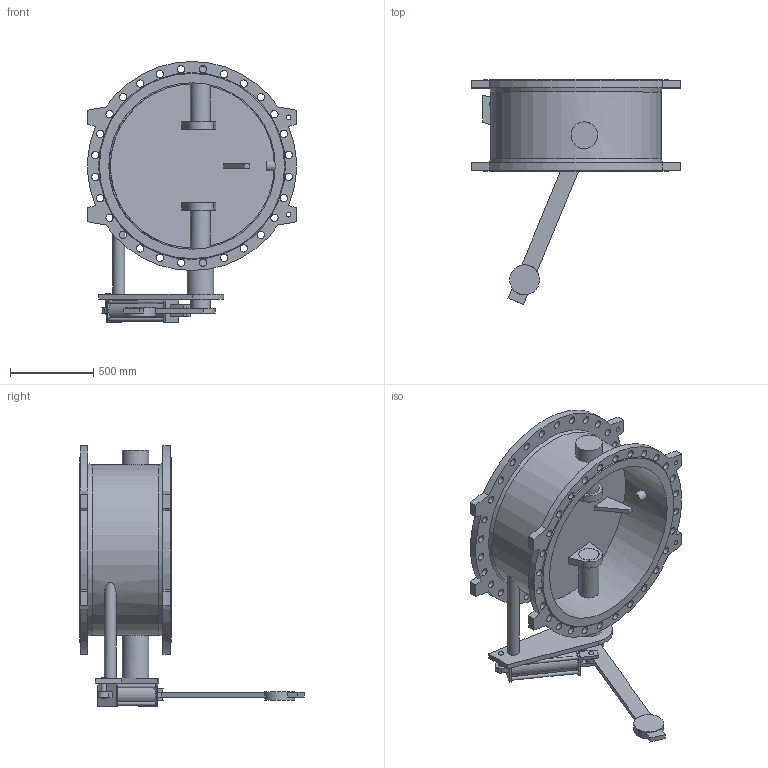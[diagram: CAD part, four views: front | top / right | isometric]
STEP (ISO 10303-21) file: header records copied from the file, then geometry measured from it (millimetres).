
FILE_DESCRIPTION(('STEP AP203'), '1');
FILE_NAME('Êëàïàí 015F.PV DN1000 PN16 ñ ïðîòèâîâåñîì ñ äåìïôåðîì', '', ('UNSPECIFIED'), ('UNSPECIFIED'), 'ASCON STEP Converter 1.6', 'ASCON Math Kernel', '');
FILE_SCHEMA(('CONFIG_CONTROL_DESIGN'));
Length unit declared in the file: millimetre
Bounding box: 1255 x 1350 x 1567.5 mm (x, y, z)
Volume: 101665330.7 mm3; surface area: 8982560.2 mm2
Topology: 1 solids, 1 shells, 223 faces, 577 edges, 383 vertices
Faces by surface type: cylinder 114, plane 100, cone 4, extrusion 2, torus 2, bspline 1
Full cylindrical faces by diameter (mm): 20 x5, 28 x4, 30 x9, 44 x56, 45 x1, 60 x1, 70 x1, 120 x4, 122 x2, 160 x2, 180 x1, 1000 x1, 1026 x1
Entity records: 10391 total; most frequent: CARTESIAN_POINT 3053, DIRECTION 1122, ORIENTED_EDGE 948, EDGE_LOOP 494, EDGE_CURVE 474, AXIS2_PLACEMENT_3D 453, VERTEX_POINT 382, FACE_BOUND 306
